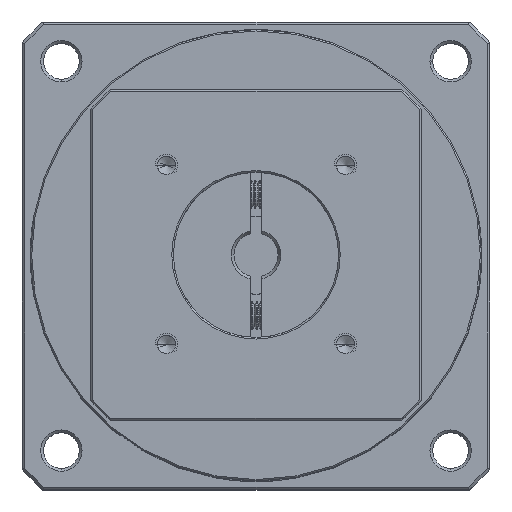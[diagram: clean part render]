
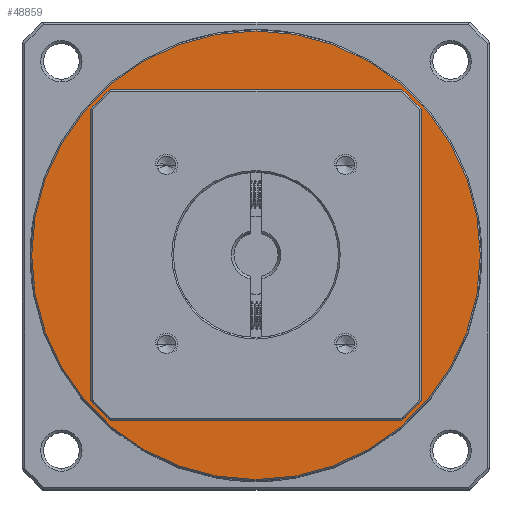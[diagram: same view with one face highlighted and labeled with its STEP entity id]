
A CAD part, top view. The second image highlights one B-rep face of the part: STEP entity #48859.
In plain terms, the highlighted planar face has unit normal (0, 0, 1).
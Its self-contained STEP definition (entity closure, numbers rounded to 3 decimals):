
#5583 = ORIENTED_EDGE ( 'NONE', *, *, #94088, .F. ) ;
#6840 = DIRECTION ( 'NONE',  ( 0., 0., 1. ) ) ;
#7497 = CARTESIAN_POINT ( 'NONE',  ( -22.954, 21.409, -20.099 ) ) ;
#14447 = ORIENTED_EDGE ( 'NONE', *, *, #24954, .T. ) ;
#15124 = AXIS2_PLACEMENT_3D ( 'NONE', #47833, #109346, #56684 ) ;
#16185 = CIRCLE ( 'NONE', #51567, 30. ) ;
#17048 = DIRECTION ( 'NONE',  ( 0., 0., -1. ) ) ;
#24954 = EDGE_CURVE ( 'NONE', #110464, #73285, #35641, .T. ) ;
#26219 = CARTESIAN_POINT ( 'NONE',  ( -63.704, 21.409, -20.099 ) ) ;
#28182 = DIRECTION ( 'NONE',  ( 0., 0., -1. ) ) ;
#29235 = CARTESIAN_POINT ( 'NONE',  ( -93.704, 21.409, -20.099 ) ) ;
#31289 = EDGE_CURVE ( 'NONE', #73285, #110464, #16185, .T. ) ;
#35154 = DIRECTION ( 'NONE',  ( -1., 0., 0. ) ) ;
#35641 = CIRCLE ( 'NONE', #71504, 30. ) ;
#47833 = CARTESIAN_POINT ( 'NONE',  ( -63.704, 21.409, -20.099 ) ) ;
#48859 = ADVANCED_FACE ( 'NONE', ( #108277, #61594 ), #76987, .T. ) ;
#50613 = CIRCLE ( 'NONE', #93291, 40.75 ) ;
#51567 = AXIS2_PLACEMENT_3D ( 'NONE', #26219, #87822, #35154 ) ;
#55059 = CIRCLE ( 'NONE', #15124, 40.75 ) ;
#56684 = DIRECTION ( 'NONE',  ( -1., 0., 0. ) ) ;
#59638 = CARTESIAN_POINT ( 'NONE',  ( -63.704, 21.409, -20.099 ) ) ;
#61594 = FACE_BOUND ( 'NONE', #90868, .T. ) ;
#61679 = EDGE_CURVE ( 'NONE', #87239, #88699, #55059, .T. ) ;
#68530 = DIRECTION ( 'NONE',  ( 1., 0., 0. ) ) ;
#69831 = CARTESIAN_POINT ( 'NONE',  ( -63.704, 21.409, -20.099 ) ) ;
#71504 = AXIS2_PLACEMENT_3D ( 'NONE', #80953, #28182, #89766 ) ;
#73285 = VERTEX_POINT ( 'NONE', #29235 ) ;
#76987 = PLANE ( 'NONE',  #101947 ) ;
#78651 = DIRECTION ( 'NONE',  ( -1., 0., 0. ) ) ;
#80953 = CARTESIAN_POINT ( 'NONE',  ( -63.704, 21.409, -20.099 ) ) ;
#81390 = ORIENTED_EDGE ( 'NONE', *, *, #31289, .T. ) ;
#81629 = CARTESIAN_POINT ( 'NONE',  ( -33.704, 21.409, -20.099 ) ) ;
#81932 = ORIENTED_EDGE ( 'NONE', *, *, #61679, .F. ) ;
#87239 = VERTEX_POINT ( 'NONE', #7497 ) ;
#87822 = DIRECTION ( 'NONE',  ( 0., 0., -1. ) ) ;
#88699 = VERTEX_POINT ( 'NONE', #111168 ) ;
#89538 = EDGE_LOOP ( 'NONE', ( #5583, #81932 ) ) ;
#89766 = DIRECTION ( 'NONE',  ( -1., 0., 0. ) ) ;
#90868 = EDGE_LOOP ( 'NONE', ( #81390, #14447 ) ) ;
#93291 = AXIS2_PLACEMENT_3D ( 'NONE', #69831, #17048, #78651 ) ;
#94088 = EDGE_CURVE ( 'NONE', #88699, #87239, #50613, .T. ) ;
#101947 = AXIS2_PLACEMENT_3D ( 'NONE', #59638, #6840, #68530 ) ;
#108277 = FACE_OUTER_BOUND ( 'NONE', #89538, .T. ) ;
#109346 = DIRECTION ( 'NONE',  ( 0., 0., -1. ) ) ;
#110464 = VERTEX_POINT ( 'NONE', #81629 ) ;
#111168 = CARTESIAN_POINT ( 'NONE',  ( -104.454, 21.409, -20.099 ) ) ;
